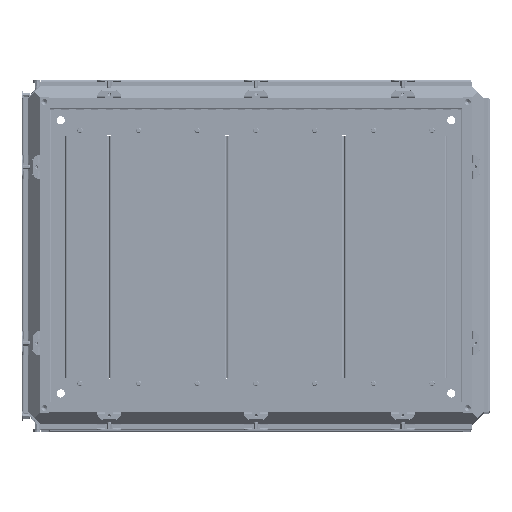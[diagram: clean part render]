
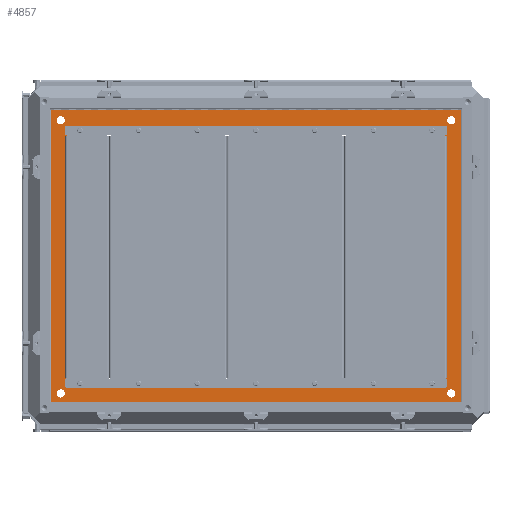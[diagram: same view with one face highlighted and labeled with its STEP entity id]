
A CAD part, top view. The second image highlights one B-rep face of the part: STEP entity #4857.
In plain terms, the highlighted planar face has unit normal (0, 0, 1).
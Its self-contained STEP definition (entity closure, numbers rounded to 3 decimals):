
#4857=ADVANCED_FACE('',(#17719,#17721,#17723,#17725,#17727,#17729),#17731,.F.);
#17719=FACE_BOUND('',#17720,.T.);
#17720=EDGE_LOOP('',(#116323,#116324,#116325,#116326));
#17721=FACE_BOUND('',#17722,.T.);
#17722=EDGE_LOOP('',(#116327,#116328,#116329,#116330));
#17723=FACE_BOUND('',#17724,.T.);
#17724=EDGE_LOOP('',(#116331));
#17725=FACE_BOUND('',#17726,.T.);
#17726=EDGE_LOOP('',(#116332));
#17727=FACE_BOUND('',#17728,.T.);
#17728=EDGE_LOOP('',(#116333));
#17729=FACE_BOUND('',#17730,.T.);
#17730=EDGE_LOOP('',(#116334));
#17731=PLANE('',#17732);
#17732=AXIS2_PLACEMENT_3D('',#17733,#17734,#17735);
#17733=CARTESIAN_POINT('',(0.,0.,-47.5));
#17734=DIRECTION('',(0.,0.,-1.));
#17735=DIRECTION('',(0.,1.,0.));
#116323=ORIENTED_EDGE('',*,*,#176265,.F.);
#116324=ORIENTED_EDGE('',*,*,#176266,.F.);
#116325=ORIENTED_EDGE('',*,*,#176267,.T.);
#116326=ORIENTED_EDGE('',*,*,#176268,.T.);
#116327=ORIENTED_EDGE('',*,*,#176269,.T.);
#116328=ORIENTED_EDGE('',*,*,#176270,.F.);
#116329=ORIENTED_EDGE('',*,*,#176271,.F.);
#116330=ORIENTED_EDGE('',*,*,#176272,.F.);
#116331=ORIENTED_EDGE('',*,*,#176273,.T.);
#116332=ORIENTED_EDGE('',*,*,#176274,.F.);
#116333=ORIENTED_EDGE('',*,*,#176275,.F.);
#116334=ORIENTED_EDGE('',*,*,#176276,.T.);
#176265=EDGE_CURVE('',#207152,#207153,#207154,.F.);
#176266=EDGE_CURVE('',#207155,#207152,#207156,.F.);
#176267=EDGE_CURVE('',#207155,#207157,#207158,.F.);
#176268=EDGE_CURVE('',#207157,#207153,#207159,.F.);
#176269=EDGE_CURVE('',#207160,#207161,#207162,.F.);
#176270=EDGE_CURVE('',#207163,#207161,#207164,.F.);
#176271=EDGE_CURVE('',#207165,#207163,#207166,.F.);
#176272=EDGE_CURVE('',#207160,#207165,#207167,.F.);
#176273=EDGE_CURVE('',#207168,#207168,#207169,.T.);
#176274=EDGE_CURVE('',#207170,#207170,#207171,.T.);
#176275=EDGE_CURVE('',#207172,#207172,#207173,.T.);
#176276=EDGE_CURVE('',#207174,#207174,#207175,.T.);
#207152=VERTEX_POINT('',#260961);
#207153=VERTEX_POINT('',#260962);
#207154=LINE('',#260963,#260964);
#207155=VERTEX_POINT('',#260966);
#207156=LINE('',#260967,#260968);
#207157=VERTEX_POINT('',#260970);
#207158=LINE('',#260971,#260972);
#207159=LINE('',#260974,#260975);
#207160=VERTEX_POINT('',#260977);
#207161=VERTEX_POINT('',#260978);
#207162=LINE('',#260979,#260980);
#207163=VERTEX_POINT('',#260982);
#207164=LINE('',#260983,#260984);
#207165=VERTEX_POINT('',#260986);
#207166=LINE('',#260987,#260988);
#207167=LINE('',#260990,#260991);
#207168=VERTEX_POINT('',#260993);
#207169=CIRCLE('',#260994,7.);
#207170=VERTEX_POINT('',#260998);
#207171=CIRCLE('',#260999,7.);
#207172=VERTEX_POINT('',#261003);
#207173=CIRCLE('',#261004,7.);
#207174=VERTEX_POINT('',#261008);
#207175=CIRCLE('',#261009,7.);
#260961=CARTESIAN_POINT('',(-1.6,1.6,-47.5));
#260962=CARTESIAN_POINT('',(-700.4,1.6,-47.5));
#260963=CARTESIAN_POINT('',(-700.4,1.6,-47.5));
#260964=VECTOR('',#260965,1.);
#260965=DIRECTION('',(1.,0.,0.));
#260966=CARTESIAN_POINT('',(-1.6,500.4,-47.5));
#260967=CARTESIAN_POINT('',(-1.6,1.6,-47.5));
#260968=VECTOR('',#260969,1.);
#260969=DIRECTION('',(0.,1.,0.));
#260970=CARTESIAN_POINT('',(-700.4,500.4,-47.5));
#260971=CARTESIAN_POINT('',(-700.4,500.4,-47.5));
#260972=VECTOR('',#260973,1.);
#260973=DIRECTION('',(1.,0.,0.));
#260974=CARTESIAN_POINT('',(-700.4,1.6,-47.5));
#260975=VECTOR('',#260976,1.);
#260976=DIRECTION('',(0.,1.,0.));
#260977=CARTESIAN_POINT('',(-39.4,39.4,-47.5));
#260978=CARTESIAN_POINT('',(-662.6,39.4,-47.5));
#260979=CARTESIAN_POINT('',(-662.6,39.4,-47.5));
#260980=VECTOR('',#260981,1.);
#260981=DIRECTION('',(1.,0.,0.));
#260982=CARTESIAN_POINT('',(-662.6,462.6,-47.5));
#260983=CARTESIAN_POINT('',(-662.6,39.4,-47.5));
#260984=VECTOR('',#260985,1.);
#260985=DIRECTION('',(0.,1.,0.));
#260986=CARTESIAN_POINT('',(-39.4,462.6,-47.5));
#260987=CARTESIAN_POINT('',(-662.6,462.6,-47.5));
#260988=VECTOR('',#260989,1.);
#260989=DIRECTION('',(1.,0.,0.));
#260990=CARTESIAN_POINT('',(-39.4,462.6,-47.5));
#260991=VECTOR('',#260992,1.);
#260992=DIRECTION('',(0.,-1.,0.));
#260993=CARTESIAN_POINT('',(-18.5,25.5,-47.5));
#260994=AXIS2_PLACEMENT_3D('',#260995,#260996,#260997);
#260995=CARTESIAN_POINT('',(-18.5,18.5,-47.5));
#260996=DIRECTION('',(0.,0.,-1.));
#260997=DIRECTION('',(0.,1.,0.));
#260998=CARTESIAN_POINT('',(-683.5,25.5,-47.5));
#260999=AXIS2_PLACEMENT_3D('',#261000,#261001,#261002);
#261000=CARTESIAN_POINT('',(-683.5,18.5,-47.5));
#261001=DIRECTION('',(0.,0.,1.));
#261002=DIRECTION('',(0.,1.,0.));
#261003=CARTESIAN_POINT('',(-18.5,476.5,-47.5));
#261004=AXIS2_PLACEMENT_3D('',#261005,#261006,#261007);
#261005=CARTESIAN_POINT('',(-18.5,483.5,-47.5));
#261006=DIRECTION('',(0.,0.,1.));
#261007=DIRECTION('',(0.,-1.,0.));
#261008=CARTESIAN_POINT('',(-683.5,476.5,-47.5));
#261009=AXIS2_PLACEMENT_3D('',#261010,#261011,#261012);
#261010=CARTESIAN_POINT('',(-683.5,483.5,-47.5));
#261011=DIRECTION('',(0.,0.,-1.));
#261012=DIRECTION('',(0.,-1.,0.));
